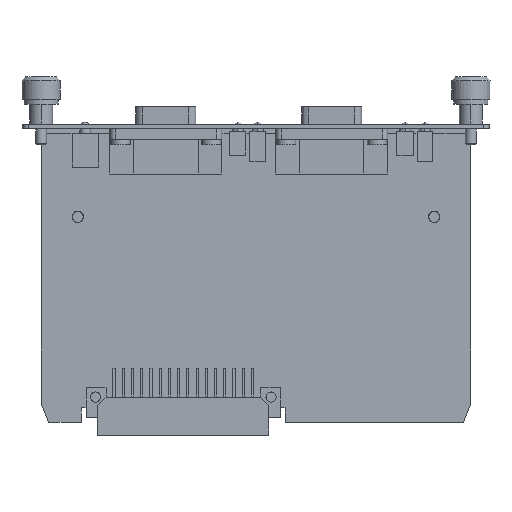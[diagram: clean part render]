
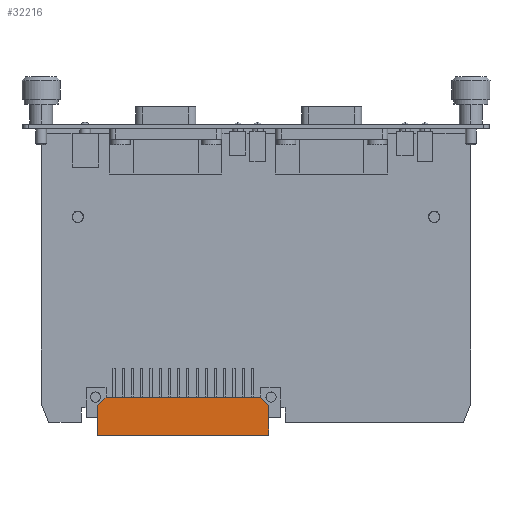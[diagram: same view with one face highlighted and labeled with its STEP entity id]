
A CAD part, left-side view. The second image highlights one B-rep face of the part: STEP entity #32216.
In plain terms, the highlighted planar face has unit normal (-1, 0, 0).
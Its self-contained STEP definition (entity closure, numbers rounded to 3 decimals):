
#9150=DIRECTION('',(0.,1.,0.));
#9151=VECTOR('',#9150,42.5);
#9152=CARTESIAN_POINT('',(-9.6,-1.25,-6.54));
#9153=LINE('',#9152,#9151);
#9154=DIRECTION('',(0.,0.698,0.716));
#9155=VECTOR('',#9154,3.295);
#9156=CARTESIAN_POINT('',(-9.6,-3.55,-8.9));
#9157=LINE('',#9156,#9155);
#9158=DIRECTION('',(0.,0.,1.));
#9159=VECTOR('',#9158,8.1);
#9160=CARTESIAN_POINT('',(-9.6,-3.55,-17.));
#9161=LINE('',#9160,#9159);
#9162=DIRECTION('',(0.,-1.,0.));
#9163=VECTOR('',#9162,47.1);
#9164=CARTESIAN_POINT('',(-9.6,43.55,-17.));
#9165=LINE('',#9164,#9163);
#9166=DIRECTION('',(0.,0.,-1.));
#9167=VECTOR('',#9166,8.1);
#9168=CARTESIAN_POINT('',(-9.6,43.55,-8.9));
#9169=LINE('',#9168,#9167);
#9170=DIRECTION('',(0.,0.698,-0.716));
#9171=VECTOR('',#9170,3.295);
#9172=CARTESIAN_POINT('',(-9.6,41.25,-6.54));
#9173=LINE('',#9172,#9171);
#13637=CARTESIAN_POINT('',(-9.6,-1.25,-6.54));
#13638=CARTESIAN_POINT('',(-9.6,41.25,-6.54));
#13639=VERTEX_POINT('',#13637);
#13640=VERTEX_POINT('',#13638);
#13641=CARTESIAN_POINT('',(-9.6,-3.55,-8.9));
#13643=VERTEX_POINT('',#13641);
#13645=CARTESIAN_POINT('',(-9.6,43.55,-8.9));
#13646=VERTEX_POINT('',#13645);
#13649=CARTESIAN_POINT('',(-9.6,43.55,-17.));
#13650=VERTEX_POINT('',#13649);
#13651=CARTESIAN_POINT('',(-9.6,-3.55,-17.));
#13652=VERTEX_POINT('',#13651);
#32200=CARTESIAN_POINT('',(-9.6,46.75,-17.));
#32201=DIRECTION('',(1.,0.,0.));
#32202=DIRECTION('',(0.,-1.,0.));
#32203=AXIS2_PLACEMENT_3D('',#32200,#32201,#32202);
#32204=PLANE('',#32203);
#32205=ORIENTED_EDGE('',*,*,#21752,.F.);
#32207=ORIENTED_EDGE('',*,*,#32206,.F.);
#32209=ORIENTED_EDGE('',*,*,#32208,.F.);
#32211=ORIENTED_EDGE('',*,*,#32210,.F.);
#32212=ORIENTED_EDGE('',*,*,#32106,.F.);
#32213=ORIENTED_EDGE('',*,*,#32193,.F.);
#32214=EDGE_LOOP('',(#32205,#32207,#32209,#32211,#32212,#32213));
#32215=FACE_OUTER_BOUND('',#32214,.F.);
#21752=EDGE_CURVE('',#13639,#13640,#9153,.T.);
#32106=EDGE_CURVE('',#13646,#13650,#9169,.T.);
#32193=EDGE_CURVE('',#13640,#13646,#9173,.T.);
#32206=EDGE_CURVE('',#13643,#13639,#9157,.T.);
#32208=EDGE_CURVE('',#13652,#13643,#9161,.T.);
#32210=EDGE_CURVE('',#13650,#13652,#9165,.T.);
#32216=ADVANCED_FACE('',(#32215),#32204,.F.);
